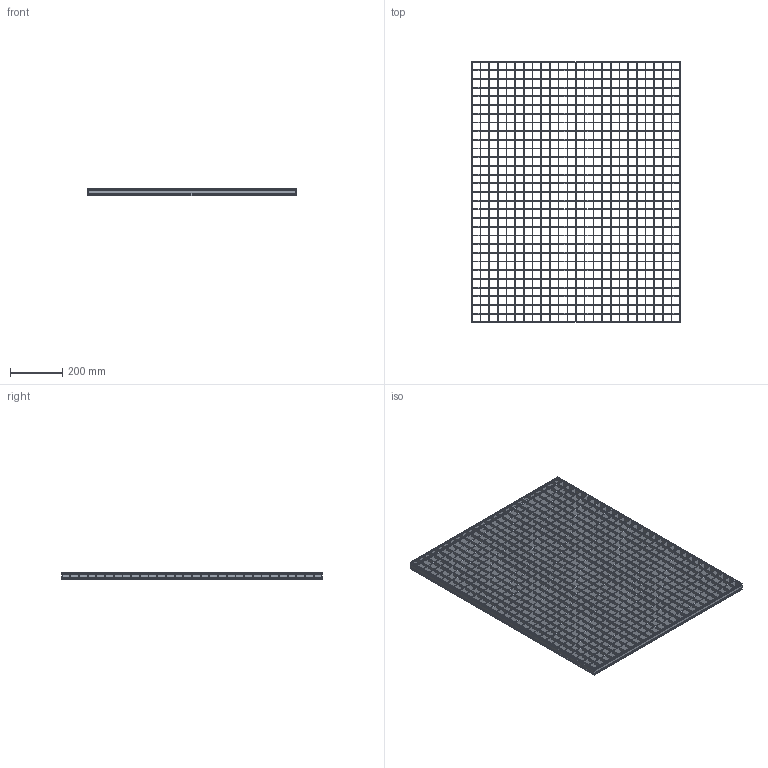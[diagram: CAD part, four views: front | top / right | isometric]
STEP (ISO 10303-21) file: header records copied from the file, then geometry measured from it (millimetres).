
FILE_DESCRIPTION(/* description */ ('STEP AP242','CAx-IF Rec.Pracs.---Representation and Presentation of Product Manufacturing Information (PMI)---4.0---2014-10-13','CAx-IF Rec.Pracs.---3D Tessellated Geometry---0.4---2014-09-14','2;1'),/* implementation_level */ '2;1');
FILE_NAME(/* name */ 'Lichtgitter_Pressure_locked_gratings P 330-33-3-1-1-800-1000_(350_0)',/* time_stamp */ '2026-04-22T15:04:58+02:00',/* author */ ('License CC BY-ND 4.0'),/* organization */ ('CADENAS'),/* preprocessor_version */ 'ST-DEVELOPER v20',/* originating_system */ 'PARTsolutions',/* authorisation */ ' ');
FILE_SCHEMA (('AP242_MANAGED_MODEL_BASED_3D_ENGINEERING_MIM_LF { 1 0 10303 442 1 1 4 }'));
Length unit declared in the file: millimetre
Products named in the file (5): Lichtgitter_Pressure_locked_gratings P 330-33-3-1-1-800-1000_(350_0); Lichtgitter P 330-33-3_(Pressroste_350_1_1000_800)_VERTICAL; Lichtgitter P 330-33-3_(Pressroste_350_1_1000_800)_HORIZONTAL_C; Lichtgitter P 330-33-3_(Pressroste_350_1_1000_800)_HORIZONTAL; Lichtgitter P 330-33-3_(Pressroste_350_1_1000_800)_VERTICAL_C
Assembly tree (56 placements, depth 2):
  Lichtgitter_Pressure_locked_gratings P 330-33-3-1-1-800-1000_(350_0)
    Lichtgitter P 330-33-3_(Pressroste_350_1_1000_800)_VERTICAL  x2
    Lichtgitter P 330-33-3_(Pressroste_350_1_1000_800)_HORIZONTAL_C  x29
    Lichtgitter P 330-33-3_(Pressroste_350_1_1000_800)_HORIZONTAL  x2
    Lichtgitter P 330-33-3_(Pressroste_350_1_1000_800)_VERTICAL_C  x23
Bounding box: 800 x 1000 x 30 mm (x, y, z)
Volume: 2802948.7 mm3; surface area: 2335239.2 mm2
Topology: 56 solids, 56 shells, 3052 faces, 8820 edges, 5880 vertices
Faces by surface type: plane 3020, cylinder 32
Entity records: 5007 total; most frequent: CARTESIAN_POINT 857, DIRECTION 822, ORIENTED_EDGE 792, EDGE_CURVE 396, LINE 364, VECTOR 364, VERTEX_POINT 264, AXIS2_PLACEMENT_3D 229
